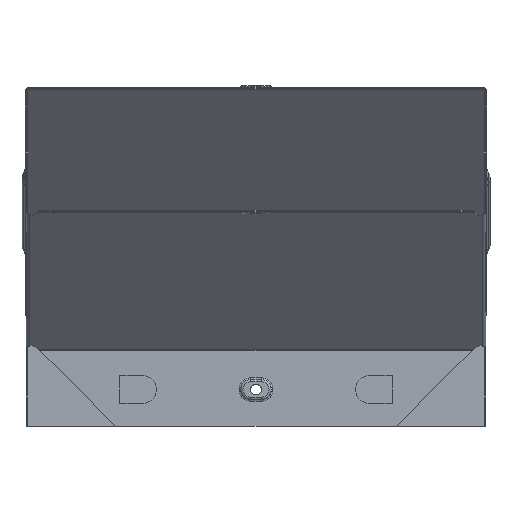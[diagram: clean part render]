
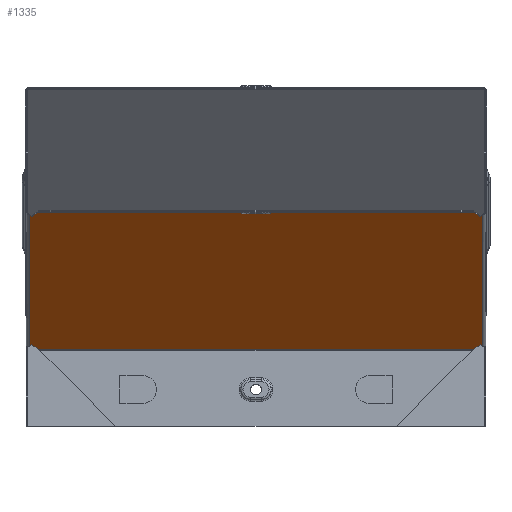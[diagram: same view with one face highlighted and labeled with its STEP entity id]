
A CAD part, top view. The second image highlights one B-rep face of the part: STEP entity #1335.
In plain terms, the highlighted planar face has unit normal (0, -0.707, 0.707).
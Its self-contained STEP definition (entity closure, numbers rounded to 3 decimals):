
#337 = CARTESIAN_POINT ( 'NONE',  ( 91.546, 105.512, 55.512 ) ) ;
#499 = CARTESIAN_POINT ( 'NONE',  ( -150.299, 69.208, 19.208 ) ) ;
#615 = CARTESIAN_POINT ( 'NONE',  ( 148.2, -17.724, -67.724 ) ) ;
#756 = CARTESIAN_POINT ( 'NONE',  ( 148.2, 70., 20. ) ) ;
#806 = VERTEX_POINT ( 'NONE', #7751 ) ;
#890 = CARTESIAN_POINT ( 'NONE',  ( -142.181, -19.707, -69.707 ) ) ;
#953 = CARTESIAN_POINT ( 'NONE',  ( -142.181, 69.707, 19.707 ) ) ;
#973 = CARTESIAN_POINT ( 'NONE',  ( 148.2, -19.707, -69.707 ) ) ;
#1003 = VERTEX_POINT ( 'NONE', #1885 ) ;
#1014 = CARTESIAN_POINT ( 'NONE',  ( -91.546, -55.512, -105.512 ) ) ;
#1238 = CARTESIAN_POINT ( 'NONE',  ( -148.2, -17.724, -67.724 ) ) ;
#1248 = ORIENTED_EDGE ( 'NONE', *, *, #5359, .T. ) ;
#1298 = VECTOR ( 'NONE', #6598, 1000. ) ;
#1311 = EDGE_CURVE ( 'NONE', #3495, #8767, #5918, .T. ) ;
#1335 = ADVANCED_FACE ( 'NONE', ( #1788 ), #3811, .F. ) ;
#1383 = VECTOR ( 'NONE', #1751, 1000. ) ;
#1465 = CARTESIAN_POINT ( 'NONE',  ( 150.299, -19.208, -69.208 ) ) ;
#1576 = VERTEX_POINT ( 'NONE', #3385 ) ;
#1737 = CARTESIAN_POINT ( 'NONE',  ( 150.299, 69.208, 19.208 ) ) ;
#1751 = DIRECTION ( 'NONE',  ( 0., -0.707, -0.707 ) ) ;
#1788 = FACE_OUTER_BOUND ( 'NONE', #5542, .T. ) ;
#1885 = CARTESIAN_POINT ( 'NONE',  ( -146.592, 66.588, 16.588 ) ) ;
#1901 = ORIENTED_EDGE ( 'NONE', *, *, #6498, .T. ) ;
#2135 = VECTOR ( 'NONE', #6902, 1000. ) ;
#2346 = LINE ( 'NONE', #6489, #1383 ) ;
#2563 = DIRECTION ( 'NONE',  ( 0.707, 0.5, 0.5 ) ) ;
#2654 = ORIENTED_EDGE ( 'NONE', *, *, #7250, .T. ) ;
#2665 = LINE ( 'NONE', #756, #2135 ) ;
#2677 = ORIENTED_EDGE ( 'NONE', *, *, #7081, .T. ) ;
#2984 = DIRECTION ( 'NONE',  ( -0.707, 0.5, 0.5 ) ) ;
#3060 = DIRECTION ( 'NONE',  ( 0.707, -0.5, -0.5 ) ) ;
#3109 = VECTOR ( 'NONE', #2984, 1000. ) ;
#3207 = CARTESIAN_POINT ( 'NONE',  ( 148.2, 69.707, 19.707 ) ) ;
#3215 = ORIENTED_EDGE ( 'NONE', *, *, #7380, .T. ) ;
#3225 = CARTESIAN_POINT ( 'NONE',  ( 146.592, -16.588, -66.588 ) ) ;
#3313 = VECTOR ( 'NONE', #5973, 1000. ) ;
#3385 = CARTESIAN_POINT ( 'NONE',  ( 146.592, 66.588, 16.588 ) ) ;
#3495 = VERTEX_POINT ( 'NONE', #6812 ) ;
#3529 = VERTEX_POINT ( 'NONE', #615 ) ;
#3638 = EDGE_CURVE ( 'NONE', #4151, #3529, #2665, .T. ) ;
#3811 = PLANE ( 'NONE',  #6804 ) ;
#3847 = DIRECTION ( 'NONE',  ( 0.707, 0.5, 0.5 ) ) ;
#3850 = DIRECTION ( 'NONE',  ( -0.707, 0.5, 0.5 ) ) ;
#3858 = LINE ( 'NONE', #6571, #1298 ) ;
#3929 = CARTESIAN_POINT ( 'NONE',  ( -150.299, -19.208, -69.208 ) ) ;
#3947 = EDGE_CURVE ( 'NONE', #7661, #5845, #2346, .T. ) ;
#4013 = VERTEX_POINT ( 'NONE', #3225 ) ;
#4151 = VERTEX_POINT ( 'NONE', #8121 ) ;
#4365 = EDGE_CURVE ( 'NONE', #1003, #7661, #5645, .T. ) ;
#4382 = DIRECTION ( 'NONE',  ( -0.707, -0.5, -0.5 ) ) ;
#4433 = LINE ( 'NONE', #1737, #6776 ) ;
#4534 = VERTEX_POINT ( 'NONE', #4876 ) ;
#4638 = LINE ( 'NONE', #973, #6459 ) ;
#4697 = ORIENTED_EDGE ( 'NONE', *, *, #5299, .T. ) ;
#4876 = CARTESIAN_POINT ( 'NONE',  ( 142.181, 69.707, 19.707 ) ) ;
#5159 = LINE ( 'NONE', #8090, #8017 ) ;
#5184 = DIRECTION ( 'NONE',  ( 0., 0.707, -0.707 ) ) ;
#5187 = VECTOR ( 'NONE', #3060, 1000. ) ;
#5254 = VERTEX_POINT ( 'NONE', #953 ) ;
#5299 = EDGE_CURVE ( 'NONE', #4151, #1576, #4433, .T. ) ;
#5359 = EDGE_CURVE ( 'NONE', #5845, #3495, #5507, .T. ) ;
#5507 = LINE ( 'NONE', #3929, #5713 ) ;
#5542 = EDGE_LOOP ( 'NONE', ( #4697, #2654, #7255, #3215, #8375, #7201, #1248, #7625, #8782, #1901, #2677, #7169 ) ) ;
#5625 = EDGE_CURVE ( 'NONE', #806, #8767, #4638, .T. ) ;
#5645 = LINE ( 'NONE', #499, #6506 ) ;
#5713 = VECTOR ( 'NONE', #3847, 1000. ) ;
#5845 = VERTEX_POINT ( 'NONE', #1238 ) ;
#5914 = DIRECTION ( 'NONE',  ( 0., 0.707, 0.707 ) ) ;
#5918 = LINE ( 'NONE', #1014, #5187 ) ;
#5973 = DIRECTION ( 'NONE',  ( -1., 0., 0. ) ) ;
#6276 = DIRECTION ( 'NONE',  ( 0.707, -0.5, -0.5 ) ) ;
#6459 = VECTOR ( 'NONE', #7674, 1000. ) ;
#6489 = CARTESIAN_POINT ( 'NONE',  ( -148.2, 70., 20. ) ) ;
#6498 = EDGE_CURVE ( 'NONE', #806, #4013, #5159, .T. ) ;
#6506 = VECTOR ( 'NONE', #3850, 1000. ) ;
#6571 = CARTESIAN_POINT ( 'NONE',  ( -91.546, 105.512, 55.512 ) ) ;
#6598 = DIRECTION ( 'NONE',  ( -0.707, -0.5, -0.5 ) ) ;
#6776 = VECTOR ( 'NONE', #4382, 1000. ) ;
#6804 = AXIS2_PLACEMENT_3D ( 'NONE', #8522, #5184, #5914 ) ;
#6812 = CARTESIAN_POINT ( 'NONE',  ( -146.592, -16.588, -66.588 ) ) ;
#6902 = DIRECTION ( 'NONE',  ( 0., -0.707, -0.707 ) ) ;
#7081 = EDGE_CURVE ( 'NONE', #4013, #3529, #8530, .T. ) ;
#7169 = ORIENTED_EDGE ( 'NONE', *, *, #3638, .F. ) ;
#7170 = LINE ( 'NONE', #337, #3109 ) ;
#7172 = CARTESIAN_POINT ( 'NONE',  ( -148.2, 67.724, 17.724 ) ) ;
#7201 = ORIENTED_EDGE ( 'NONE', *, *, #3947, .T. ) ;
#7250 = EDGE_CURVE ( 'NONE', #1576, #4534, #7170, .T. ) ;
#7255 = ORIENTED_EDGE ( 'NONE', *, *, #7686, .T. ) ;
#7380 = EDGE_CURVE ( 'NONE', #5254, #1003, #3858, .T. ) ;
#7625 = ORIENTED_EDGE ( 'NONE', *, *, #1311, .T. ) ;
#7661 = VERTEX_POINT ( 'NONE', #7172 ) ;
#7674 = DIRECTION ( 'NONE',  ( -1., 0., 0. ) ) ;
#7686 = EDGE_CURVE ( 'NONE', #4534, #5254, #7790, .T. ) ;
#7751 = CARTESIAN_POINT ( 'NONE',  ( 142.181, -19.707, -69.707 ) ) ;
#7790 = LINE ( 'NONE', #3207, #3313 ) ;
#8017 = VECTOR ( 'NONE', #2563, 1000. ) ;
#8090 = CARTESIAN_POINT ( 'NONE',  ( 91.546, -55.512, -105.512 ) ) ;
#8121 = CARTESIAN_POINT ( 'NONE',  ( 148.2, 67.724, 17.724 ) ) ;
#8375 = ORIENTED_EDGE ( 'NONE', *, *, #4365, .T. ) ;
#8522 = CARTESIAN_POINT ( 'NONE',  ( 148.2, 70., 20. ) ) ;
#8530 = LINE ( 'NONE', #1465, #8621 ) ;
#8621 = VECTOR ( 'NONE', #6276, 1000. ) ;
#8767 = VERTEX_POINT ( 'NONE', #890 ) ;
#8782 = ORIENTED_EDGE ( 'NONE', *, *, #5625, .F. ) ;
